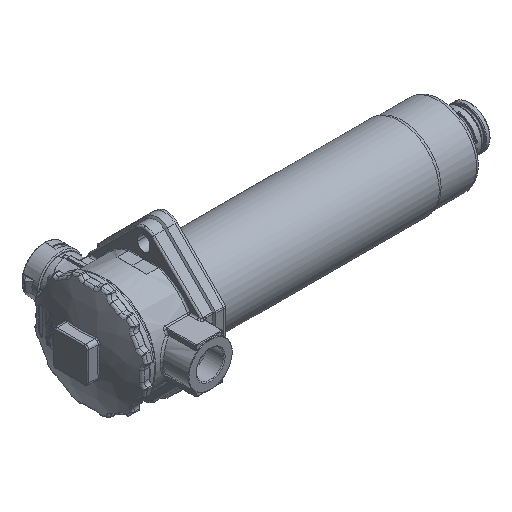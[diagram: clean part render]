
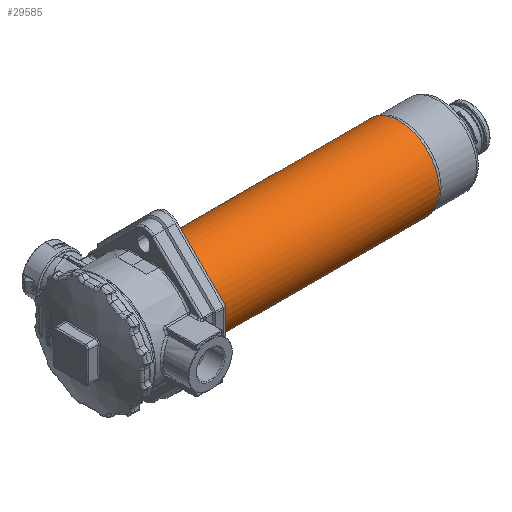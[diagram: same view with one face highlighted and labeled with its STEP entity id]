
A CAD part, isometric view. The second image highlights one B-rep face of the part: STEP entity #29585.
In plain terms, the highlighted free-form (B-spline) face has degree [2, 1] with [7, 2] control points.
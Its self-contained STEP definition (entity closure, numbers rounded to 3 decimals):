
#29506=CARTESIAN_POINT('V89',(276.,36.25,
   0.));
#29507=VERTEX_POINT('V89',#29506);
#29513=CARTESIAN_POINT('E108',(276.,
   36.25,0.));
#29514=CARTESIAN_POINT('E108',(276.,
   36.25,63.22));
#29515=CARTESIAN_POINT('E108',(276.,
   -18.5,31.61));
#29516=CARTESIAN_POINT('E108',(276.,
   -73.25,0.));
#29517=CARTESIAN_POINT('E108',(276.,
   -18.5,-31.61));
#29518=CARTESIAN_POINT('E108',(276.,
   36.25,-63.22));
#29519=CARTESIAN_POINT('E108',(276.,
   36.25,0.));
#29527=(BOUNDED_CURVE()B_SPLINE_CURVE(2,(#29513,#29514,#29515,
   #29516,#29517,#29518,#29519),.CIRCULAR_ARC.,.T.,.U.)
   B_SPLINE_CURVE_WITH_KNOTS((3,2,2,3),(0.0,42.653,
   85.305,127.958),.UNSPECIFIED.)CURVE()
   GEOMETRIC_REPRESENTATION_ITEM()RATIONAL_B_SPLINE_CURVE((1.0,
   0.5,1.0,0.5,1.0,0.5,1.0)
   )REPRESENTATION_ITEM('E108'));
#29528=EDGE_CURVE('E108',#29507,#29507,#29527,.T.);
#29535=CARTESIAN_POINT('F25',(48.,36.25,
   0.));
#29536=CARTESIAN_POINT('F25',(48.,36.25,
   63.22));
#29537=CARTESIAN_POINT('F25',(48.,-18.5,
   31.61));
#29538=CARTESIAN_POINT('F25',(48.,-73.25,
   0.));
#29539=CARTESIAN_POINT('F25',(48.,-18.5,
   -31.61));
#29540=CARTESIAN_POINT('F25',(48.,36.25,
   -63.22));
#29541=CARTESIAN_POINT('F25',(48.,36.25,
   0.));
#29542=CARTESIAN_POINT('F25',(276.,36.25,
   0.));
#29543=CARTESIAN_POINT('F25',(276.,36.25,
   63.22));
#29544=CARTESIAN_POINT('F25',(276.,
   -18.5,31.61));
#29545=CARTESIAN_POINT('F25',(276.,
   -73.25,0.));
#29546=CARTESIAN_POINT('F25',(276.,
   -18.5,-31.61));
#29547=CARTESIAN_POINT('F25',(276.,36.25,
   -63.22));
#29548=CARTESIAN_POINT('F25',(276.,36.25,
   0.));
#29556=(BOUNDED_SURFACE()B_SPLINE_SURFACE(2,1,((#29535,#29542),(
   #29536,#29543),(#29537,#29544),(#29538,#29545),(#29539,
   #29546),(#29540,#29547),(#29541,#29548)),.CYLINDRICAL_SURF.,
   .T.,.F.,.U.)B_SPLINE_SURFACE_WITH_KNOTS((3,2,2,3),(2,2),(0.0,
   0.555,1.109,1.664),(0.0,1.0),
   .UNSPECIFIED.)GEOMETRIC_REPRESENTATION_ITEM()
   RATIONAL_B_SPLINE_SURFACE(((1.0,1.0),(0.5,
   0.5),(1.0,1.0),(0.5,
   0.5),(1.0,1.0),(0.5,
   0.5),(1.0,1.0)))REPRESENTATION_ITEM('F25')SURFACE(
   ));
#29557=CARTESIAN_POINT('V54',(69.,36.25,
   0.));
#29558=VERTEX_POINT('V54',#29557);
#29559=CARTESIAN_POINT('E67',(69.,36.25,
   0.));
#29560=CARTESIAN_POINT('E67',(69.,36.25,
   -63.22));
#29561=CARTESIAN_POINT('E67',(69.,-18.5,
   -31.61));
#29562=CARTESIAN_POINT('E67',(69.,-73.25,
   0.));
#29563=CARTESIAN_POINT('E67',(69.,-18.5,
   31.61));
#29564=CARTESIAN_POINT('E67',(69.,36.25,
   63.22));
#29565=CARTESIAN_POINT('E67',(69.,36.25,
   0.));
#29573=(BOUNDED_CURVE()B_SPLINE_CURVE(2,(#29559,#29560,#29561,
   #29562,#29563,#29564,#29565),.CIRCULAR_ARC.,.T.,.U.)
   B_SPLINE_CURVE_WITH_KNOTS((3,2,2,3),(0.0,0.333,
   0.667,1.0),.UNSPECIFIED.)CURVE()
   GEOMETRIC_REPRESENTATION_ITEM()RATIONAL_B_SPLINE_CURVE((1.0,
   0.5,1.0,0.5,1.0,0.5,1.0)
   )REPRESENTATION_ITEM('E67'));
#29574=EDGE_CURVE('E67',#29558,#29558,#29573,.T.);
#29575=ORIENTED_EDGE('E67',*,*,#29574,.F.);
#29576=CARTESIAN_POINT('E107',(276.,
   36.25,0.0));
#29577=CARTESIAN_POINT('E107',(69.,36.25,
   0.0));
#29578=B_SPLINE_CURVE_WITH_KNOTS('E107',1,(#29576,#29577),
   .POLYLINE_FORM.,.F.,.U.,(2,2),(0.0,0.908),
   .UNSPECIFIED.);
#29579=EDGE_CURVE('E107',#29507,#29558,#29578,.T.);
#29580=ORIENTED_EDGE('E107',*,*,#29579,.F.);
#29581=ORIENTED_EDGE('E108',*,*,#29528,.F.);
#29582=ORIENTED_EDGE('E107',*,*,#29579,.T.);
#29583=EDGE_LOOP('F25',(#29575,#29580,#29581,#29582));
#29584=FACE_OUTER_BOUND('F25',#29583,.T.);
#29585=ADVANCED_FACE('F25',(#29584),#29556,.T.);
